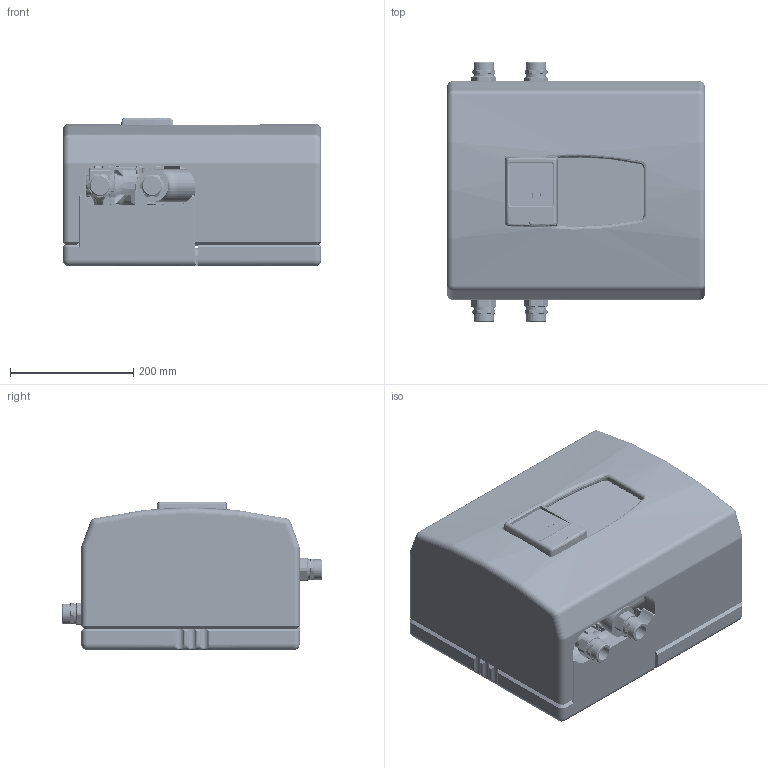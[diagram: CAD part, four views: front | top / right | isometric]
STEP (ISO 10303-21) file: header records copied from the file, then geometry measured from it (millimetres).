
FILE_DESCRIPTION(/* description */ (''),/* implementation_level */ '2;1');
FILE_NAME(/* name */ '10084644_simplified.stp',/* time_stamp */ '2024-02-19T17:21:04+01:00',/* author */ ('steinlf'),/* organization */ (''),/* preprocessor_version */ 'ST-DEVELOPER v20',/* originating_system */ 'Autodesk Inventor 2024',/* authorisation */ '');
FILE_SCHEMA (('CONFIG_CONTROL_DESIGN'));
Products named in the file (34): WIDE90011654; WIDE90006788; 28032008_017; 06032008_003; 06032008_004; WIDE90007880; 4178110_i; WIDE90006805; WIDE90006803; WIDE90006786; WIDE90006775; WIDE90006774; 3010050_i; WIDE90003013; WIDE90006806; 21112019_002; 14072017_066; 14072017_024; 14072017_023; 14072017_029; 14072017_026; 14072017_028; 14072017_025; 14072017_030; 14072017_027; 14072017_021; 14072017_022; 24042006_001; WIDE10051999; WIDE90006834; WIDE90003054; WIDE90007465; 10009977; WIDE90011653
Assembly tree (48 placements, depth 6):
  WIDE90011654
    WIDE90006788
      28032008_017
        06032008_003
        06032008_004
    WIDE90007880
      WIDE10051999  x4
      4178110_i
    WIDE90006805
      WIDE90006803
    WIDE90006786
    WIDE90006775
      WIDE90006774
        3010050_i  x4
        WIDE10051999  x4
        WIDE90003013
    WIDE90006806
      21112019_002
        14072017_066
        14072017_024
          14072017_023
            14072017_029
            14072017_026
            14072017_028
            14072017_025
          14072017_030
          14072017_027
          14072017_021
          14072017_022
        24042006_001  x4
      WIDE10051999  x2
    WIDE90006834
      WIDE90003054
    WIDE90007465
      10009977
    WIDE90011653
Bounding box: 420 x 423 x 241.3 mm (x, y, z)
Volume: 20743431.6 mm3; surface area: 2167317.7 mm2
Topology: 98 solids, 100 shells, 11429 faces, 28634 edges, 17204 vertices
Faces by surface type: plane 3951, cylinder 3036, bspline 2461, cone 926, torus 702, sphere 353
Full cylindrical faces by diameter (mm): 1 x3, 1.05 x1, 1.2 x4, 1.6 x2, 2 x5, 2.693 x1, 2.8 x1, 2.9 x1, 3 x2, 3.1 x1, 3.3 x3, 4.5 x1, 5 x7, 5.1 x1, 5.5 x2, 5.7 x2, 6 x5, 6.5 x4, 7 x1, 7.4 x1, 7.9 x1, 8 x3, 8.5 x3, 9 x1, 9.73 x1, 9.8 x1, 10 x5, 12 x1, 12.5 x1, 12.7 x2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
Entity records: 527977 total; most frequent: CARTESIAN_POINT 259151, ORIENTED_EDGE 55866, DIRECTION 52797, EDGE_CURVE 27933, AXIS2_PLACEMENT_3D 20039, VERTEX_POINT 16984, LINE 12719, VECTOR 12719
